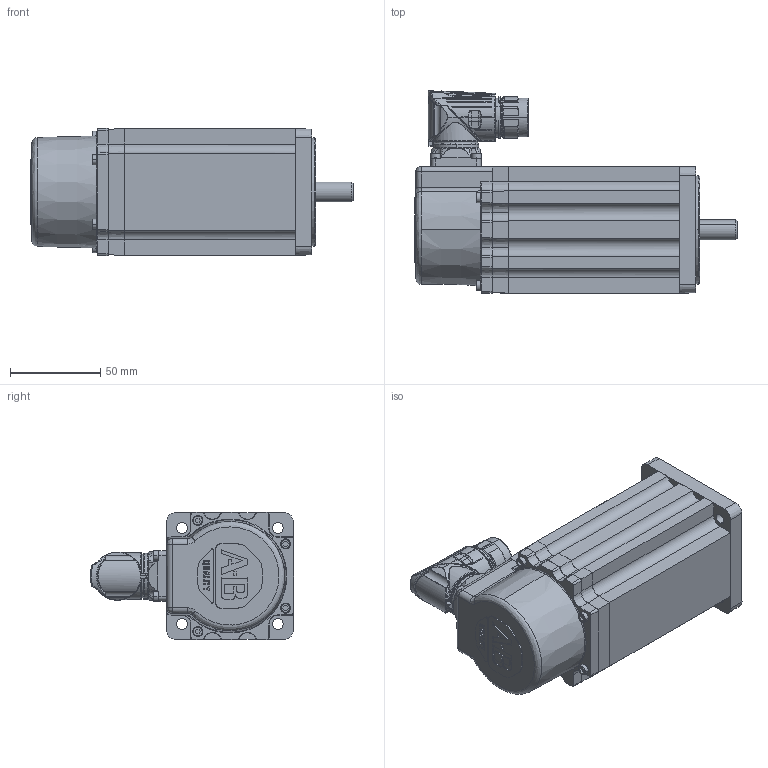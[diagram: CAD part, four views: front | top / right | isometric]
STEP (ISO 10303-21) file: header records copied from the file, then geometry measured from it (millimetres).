
FILE_DESCRIPTION (( 'STEP AP214' ), '1' );
FILE_NAME ('Rockwell Automation-$PARTNUMBER.STEP', '2014-07-24T14:16:53', ( 'Windows User' ), ( '' ), 'SwSTEP 2.0', 'SolidWorks 2014', '' );
FILE_SCHEMA (( 'AUTOMOTIVE_DESIGN' ));
Length unit declared in the file: inch
Products named in the file (26): Rockwell Automation-$PARTNUMBER_Rockwell Automation-VPL-x0751x-xKx4xx_10000014326-1; Rockwell Automation-$PARTNUMBER_Rockwell Automation-VPL-x0751x-xKx4xx_10000014325-1; Rockwell Automation-$PARTNUMBER_Rockwell Automation-VPL-x0751x-xKx4xx_10000540833; Rockwell Automation-$PARTNUMBER_Rockwell Automation-VPL-x0751x-xKx4xx_FRONT_without key_1; Rockwell Automation-$PARTNUMBER_Rockwell Automation-VPL-x0751x-xKx4xx_FRONT_1; Rockwell Automation-$PARTNUMBER_Rockwell Automation-VPL-x0751x-xKx4xx_tab; Rockwell Automation-$PARTNUMBER_Rockwell Automation-VPL-x0751x-xKx4xx_10000169222_ANY_1; Rockwell Automation-$PARTNUMBER_Rockwell Automation-VPL-x0751x-xKx4xx_vpl-075_0751_without key_break; Rockwell Automation-$PARTNUMBER_Rockwell Automation-VPL-x0751x-xKx4xx_10000206536_ASM_ANY_ASM_1; Rockwell Automation-$PARTNUMBER_Rockwell Automation-VPL-x0751x-xKx4xx_without key_3_Shaft_K_1_4; Rockwell Automation-$PARTNUMBER_Rockwell Automation-VPL-x0751x-xKx4xx_10000206535_AF0_ANY_1; Rockwell Automation-$PARTNUMBER_Rockwell Automation-VPL-x0751x-xKx4xx_REAR_ASM_ANY_ASM; Rockwell Automation-$PARTNUMBER_Rockwell Automation-VPL-x0751x-xKx4xx_10000210273_AF2_ANY_1; Rockwell Automation-$PARTNUMBER_Rockwell Automation-VPL-x0751x-xKx4xx_PRT0002; Rockwell Automation-$PARTNUMBER_Rockwell Automation-VPL-x0751x-xKx4xx_10000213398_ANY_1; Rockwell Automation-$PARTNUMBER_Rockwell Automation-VPL-x0751x-xKx4xx_PRT0001; Rockwell Automation-$PARTNUMBER_Rockwell Automation-VPL-x0751x-xKx4xx_vpl-middle-075_0751-k-break; Rockwell Automation-$PARTNUMBER_Rockwell Automation-VPL-x0751x-xKx4xx_10000220495_ASM_1_ANY_ASM; Rockwell Automation-$PARTNUMBER_Rockwell Automation-VPL-x0751x-xKx4xx_10000206533_AF0_ANY; Rockwell Automation-$PARTNUMBER; Rockwell Automation-$PARTNUMBER_Rockwell Automation-VPL-x0751x-xKx4xx_10000220495_ASM_ANY; Rockwell Automation-$PARTNUMBER_Rockwell Automation-VPL-x0751x-xKx4xx_10000205606_AF31_ANY; Rockwell Automation-$PARTNUMBER_Rockwell Automation-VPL-x0751x-xKx4xx_10000218021_ANY; Rockwell Automation-$PARTNUMBER_Rockwell Automation-VPL-x0751x-xKx4xx_91290A115_ANY; Rockwell Automation-$PARTNUMBER_Rockwell Automation-VPL-x0751x-xKx4xx_M23_Connector; Rockwell Automation-$PARTNUMBER_Rockwell Automation-VPL-x0751x-xKx4xx_10000014326-M23_ASM
Assembly tree (35 placements, depth 6):
  Rockwell Automation-$PARTNUMBER_Rockwell Automation-VPL-x0751x-xKx4xx_tab
  Rockwell Automation-$PARTNUMBER
    Rockwell Automation-$PARTNUMBER_Rockwell Automation-VPL-x0751x-xKx4xx_vpl-075_0751_without key_break
      Rockwell Automation-$PARTNUMBER_Rockwell Automation-VPL-x0751x-xKx4xx_vpl-middle-075_0751-k-break
      Rockwell Automation-$PARTNUMBER_Rockwell Automation-VPL-x0751x-xKx4xx_FRONT_without key_1
        Rockwell Automation-$PARTNUMBER_Rockwell Automation-VPL-x0751x-xKx4xx_FRONT_1
          Rockwell Automation-$PARTNUMBER_Rockwell Automation-VPL-x0751x-xKx4xx_10000213398_ANY_1
          Rockwell Automation-$PARTNUMBER_Rockwell Automation-VPL-x0751x-xKx4xx_10000206536_ASM_ANY_ASM_1
            Rockwell Automation-$PARTNUMBER_Rockwell Automation-VPL-x0751x-xKx4xx_10000210273_AF2_ANY_1
            Rockwell Automation-$PARTNUMBER_Rockwell Automation-VPL-x0751x-xKx4xx_10000206535_AF0_ANY_1
          Rockwell Automation-$PARTNUMBER_Rockwell Automation-VPL-x0751x-xKx4xx_10000169222_ANY_1  x4
      Rockwell Automation-$PARTNUMBER_Rockwell Automation-VPL-x0751x-xKx4xx_REAR_ASM_ANY_ASM
        Rockwell Automation-$PARTNUMBER_Rockwell Automation-VPL-x0751x-xKx4xx_M23_Connector
          Rockwell Automation-$PARTNUMBER_Rockwell Automation-VPL-x0751x-xKx4xx_10000540833
          Rockwell Automation-$PARTNUMBER_Rockwell Automation-VPL-x0751x-xKx4xx_10000014325-1
          Rockwell Automation-$PARTNUMBER_Rockwell Automation-VPL-x0751x-xKx4xx_10000014326-M23_ASM
            Rockwell Automation-$PARTNUMBER_Rockwell Automation-VPL-x0751x-xKx4xx_10000014326-1
        Rockwell Automation-$PARTNUMBER_Rockwell Automation-VPL-x0751x-xKx4xx_91290A115_ANY  x4
        Rockwell Automation-$PARTNUMBER_Rockwell Automation-VPL-x0751x-xKx4xx_10000218021_ANY  x2
        Rockwell Automation-$PARTNUMBER_Rockwell Automation-VPL-x0751x-xKx4xx_10000220495_ASM_1_ANY_ASM
          Rockwell Automation-$PARTNUMBER_Rockwell Automation-VPL-x0751x-xKx4xx_10000205606_AF31_ANY
          Rockwell Automation-$PARTNUMBER_Rockwell Automation-VPL-x0751x-xKx4xx_10000220495_ASM_ANY  x2
          Rockwell Automation-$PARTNUMBER_Rockwell Automation-VPL-x0751x-xKx4xx_10000206533_AF0_ANY
        Rockwell Automation-$PARTNUMBER_Rockwell Automation-VPL-x0751x-xKx4xx_PRT0001  x4
        Rockwell Automation-$PARTNUMBER_Rockwell Automation-VPL-x0751x-xKx4xx_PRT0002
      Rockwell Automation-$PARTNUMBER_Rockwell Automation-VPL-x0751x-xKx4xx_without key_3_Shaft_K_1_4
Bounding box: 178.5 x 112.23 x 70.31 mm (x, y, z)
Volume: 294879.1 mm3; surface area: 168330 mm2
Topology: 21 solids, 41 shells, 3121 faces, 8572 edges, 5551 vertices
Faces by surface type: cylinder 1014, plane 935, bspline 787, cone 383, torus 2
Entity records: 160150 total; most frequent: CARTESIAN_POINT 87141, ORIENTED_EDGE 14393, DIRECTION 8507, EDGE_CURVE 7215, VERTEX_POINT 4734, B_SPLINE_CURVE_WITH_KNOTS 3657, AXIS2_PLACEMENT_3D 3190, EDGE_LOOP 2765
